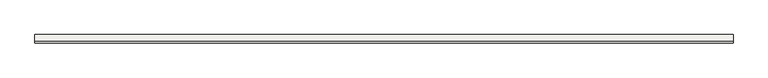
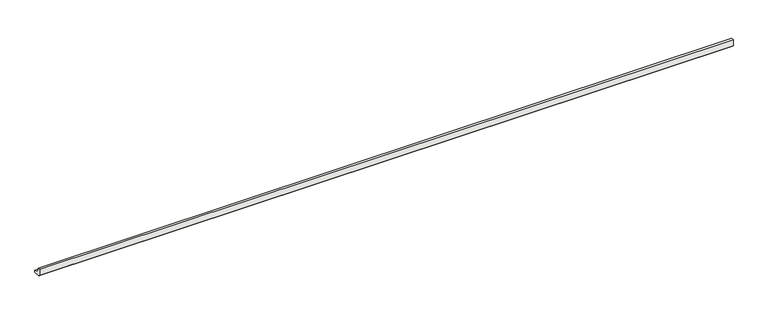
"""IFC4 building model written with IfcOpenShell, lengths in millimetres: slab geometry, ROSA GRES_188 : Pieza 188_Pietro_White_Anti-Slip."""

from ifc_helpers import new_model, si_unit, point, frame, frame_2d, origin, place, context, project, spatial, polyline, circle_curve, trimmed, segment, composite_curve, outline, extrude, source, transform, mapped, element, save


def slab_164be781(model_context):
    return source(origin(), model_context, "Body", "SweptSolid", [
        extrude(outline(composite_curve([segment(polyline([(0.0, 8.7114978), (0.0, 40.0), (9.9734114, 40.0)]), True, "CONTINUOUS"), segment(trimmed(circle_curve(frame_2d((39.9955547, 39.9955547)), 30.0221435), [point((9.9734114, 40.0))], [point((40.0, 9.9734114))], True, "CARTESIAN"), True, "CONTINUOUS"), segment(polyline([(40.0, 9.9734114), (40.0, 0.0), (8.7114978, 0.0), (0.0, 8.7114978)]), True, "CONTINUOUS")], self_intersect=False)), frame((0.0, 0.0, 0.0), z_axis=(1.0, 0.0, 0.0), x_axis=(0.0, 1.0, 0.0)), (0.0, 0.0, 1.0), 3408.0867717),
    ])


if __name__ == "__main__":
    model = new_model("IFC4")
    model_context = context("Model", 3, world=origin())
    ifc_project = project(units=[si_unit("LENGTHUNIT", "METRE", prefix="MILLI")], contexts=[model_context])
    site = spatial("IfcSite", under=ifc_project)
    building = spatial("IfcBuilding", under=site)
    placement = place(None, origin())
    slab_shape = slab_164be781(model_context)
    element("IfcSlab", 1, ObjectType="ROSA GRES_188 : Pieza 188_Pietro_White_Anti-Slip", at=placement, inside=building, context=model_context, shape_type="MappedRepresentation", body=[
        mapped(slab_shape, transform((0.0, 0.0, 0.0), x_axis=(1.0, 0.0, 0.0), y_axis=(0.0, 1.0, 0.0), z_axis=(0.0, 0.0, 1.0))),
    ])
    save(model, "model.ifc")
